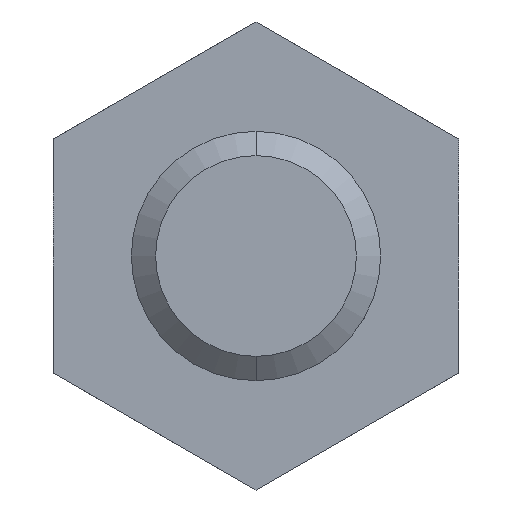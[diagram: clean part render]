
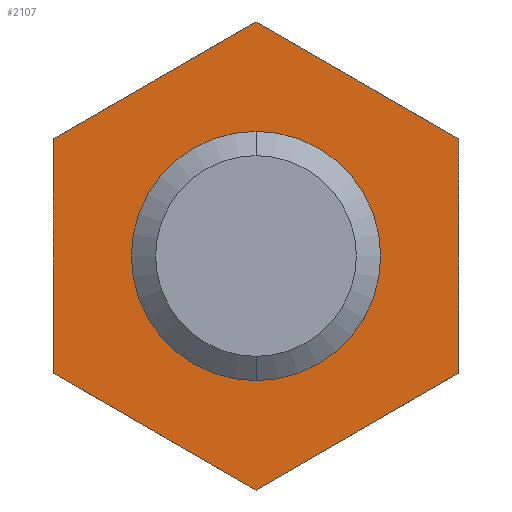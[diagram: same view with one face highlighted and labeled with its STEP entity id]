
A CAD part, front view. The second image highlights one B-rep face of the part: STEP entity #2107.
In plain terms, the highlighted planar face has unit normal (0, -1, 0).
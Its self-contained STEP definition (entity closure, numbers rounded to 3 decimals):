
#477 = DIRECTION ( 'NONE',  ( 1., 0., 0. ) ) ;
#478 = DIRECTION ( 'NONE',  ( 0., -1., 0. ) ) ;
#479 = CARTESIAN_POINT ( 'NONE',  ( -4., 12., 0. ) ) ;
#481 = AXIS2_PLACEMENT_3D ( 'NONE', #479, #478, #477 ) ;
#482 = PLANE ( 'NONE',  #481 ) ;
#483 = FACE_OUTER_BOUND ( 'NONE', #2106, .T. ) ;
#484 = FACE_BOUND ( 'NONE', #2108, .T. ) ;
#555 = CARTESIAN_POINT ( 'NONE',  ( -4., 12., 0. ) ) ;
#556 = DIRECTION ( 'NONE',  ( -1., 0., 0. ) ) ;
#557 = DIRECTION ( 'NONE',  ( 0., 1., 0. ) ) ;
#558 = CARTESIAN_POINT ( 'NONE',  ( 0., 12., 0. ) ) ;
#559 = AXIS2_PLACEMENT_3D ( 'NONE', #558, #557, #556 ) ;
#560 = CIRCLE ( 'NONE', #559, 4. ) ;
#561 = CARTESIAN_POINT ( 'NONE',  ( 4., 12., 0. ) ) ;
#572 = DIRECTION ( 'NONE',  ( -1., 0., 0. ) ) ;
#573 = DIRECTION ( 'NONE',  ( 0., 1., 0. ) ) ;
#574 = CARTESIAN_POINT ( 'NONE',  ( 0., 12., 0. ) ) ;
#575 = AXIS2_PLACEMENT_3D ( 'NONE', #574, #573, #572 ) ;
#576 = CIRCLE ( 'NONE', #575, 4. ) ;
#761 = DIRECTION ( 'NONE',  ( 0.866, 0., -0.5 ) ) ;
#762 = VECTOR ( 'NONE', #761, 1000. ) ;
#763 = CARTESIAN_POINT ( 'NONE',  ( 0., 12., 7.506 ) ) ;
#764 = LINE ( 'NONE', #763, #762 ) ;
#793 = LINE ( 'NONE', #845, #844 ) ;
#806 = CARTESIAN_POINT ( 'NONE',  ( 6.5, 12., -3.753 ) ) ;
#824 = CARTESIAN_POINT ( 'NONE',  ( 0., 12., -7.506 ) ) ;
#835 = DIRECTION ( 'NONE',  ( 0., 0., -1. ) ) ;
#844 = VECTOR ( 'NONE', #835, 1000. ) ;
#845 = CARTESIAN_POINT ( 'NONE',  ( 6.5, 12., 3.753 ) ) ;
#854 = CARTESIAN_POINT ( 'NONE',  ( -6.5, 12., -3.753 ) ) ;
#865 = DIRECTION ( 'NONE',  ( -0.866, 0., -0.5 ) ) ;
#866 = VECTOR ( 'NONE', #865, 1000. ) ;
#867 = CARTESIAN_POINT ( 'NONE',  ( 6.5, 12., -3.753 ) ) ;
#874 = LINE ( 'NONE', #867, #866 ) ;
#880 = CARTESIAN_POINT ( 'NONE',  ( 0., 12., -7.506 ) ) ;
#881 = LINE ( 'NONE', #880, #941 ) ;
#911 = CARTESIAN_POINT ( 'NONE',  ( 6.5, 12., 3.753 ) ) ;
#940 = DIRECTION ( 'NONE',  ( -0.866, 0., 0.5 ) ) ;
#941 = VECTOR ( 'NONE', #940, 1000. ) ;
#943 = CARTESIAN_POINT ( 'NONE',  ( -6.5, 12., 3.753 ) ) ;
#958 = CARTESIAN_POINT ( 'NONE',  ( 0., 12., 7.506 ) ) ;
#978 = VECTOR ( 'NONE', #987, 1000. ) ;
#987 = DIRECTION ( 'NONE',  ( 0., 0., 1. ) ) ;
#988 = CARTESIAN_POINT ( 'NONE',  ( -6.5, 12., -3.753 ) ) ;
#990 = LINE ( 'NONE', #988, #978 ) ;
#1047 = DIRECTION ( 'NONE',  ( 0.866, 0., 0.5 ) ) ;
#1048 = VECTOR ( 'NONE', #1047, 1000. ) ;
#1049 = CARTESIAN_POINT ( 'NONE',  ( -6.5, 12., 3.753 ) ) ;
#1050 = LINE ( 'NONE', #1049, #1048 ) ;
#2105 = ORIENTED_EDGE ( 'NONE', *, *, #2292, .F. ) ;
#2106 = EDGE_LOOP ( 'NONE', ( #2105, #2123, #2170, #2168, #2169, #2157 ) ) ;
#2107 = ADVANCED_FACE ( 'NONE', ( #484, #483 ), #482, .T. ) ;
#2108 = EDGE_LOOP ( 'NONE', ( #2109, #2171 ) ) ;
#2109 = ORIENTED_EDGE ( 'NONE', *, *, #2179, .T. ) ;
#2123 = ORIENTED_EDGE ( 'NONE', *, *, #2403, .F. ) ;
#2157 = ORIENTED_EDGE ( 'NONE', *, *, #2306, .F. ) ;
#2168 = ORIENTED_EDGE ( 'NONE', *, *, #2346, .F. ) ;
#2169 = ORIENTED_EDGE ( 'NONE', *, *, #2320, .F. ) ;
#2170 = ORIENTED_EDGE ( 'NONE', *, *, #2385, .F. ) ;
#2171 = ORIENTED_EDGE ( 'NONE', *, *, #2172, .T. ) ;
#2172 = EDGE_CURVE ( 'NONE', #2177, #2180, #576, .T. ) ;
#2177 = VERTEX_POINT ( 'NONE', #561 ) ;
#2179 = EDGE_CURVE ( 'NONE', #2180, #2177, #560, .T. ) ;
#2180 = VERTEX_POINT ( 'NONE', #555 ) ;
#2292 = EDGE_CURVE ( 'NONE', #2367, #2360, #764, .T. ) ;
#2297 = VERTEX_POINT ( 'NONE', #806 ) ;
#2306 = EDGE_CURVE ( 'NONE', #2360, #2297, #793, .T. ) ;
#2311 = VERTEX_POINT ( 'NONE', #824 ) ;
#2320 = EDGE_CURVE ( 'NONE', #2297, #2311, #874, .T. ) ;
#2326 = VERTEX_POINT ( 'NONE', #854 ) ;
#2346 = EDGE_CURVE ( 'NONE', #2311, #2326, #881, .T. ) ;
#2360 = VERTEX_POINT ( 'NONE', #911 ) ;
#2367 = VERTEX_POINT ( 'NONE', #958 ) ;
#2376 = VERTEX_POINT ( 'NONE', #943 ) ;
#2385 = EDGE_CURVE ( 'NONE', #2326, #2376, #990, .T. ) ;
#2403 = EDGE_CURVE ( 'NONE', #2376, #2367, #1050, .T. ) ;
